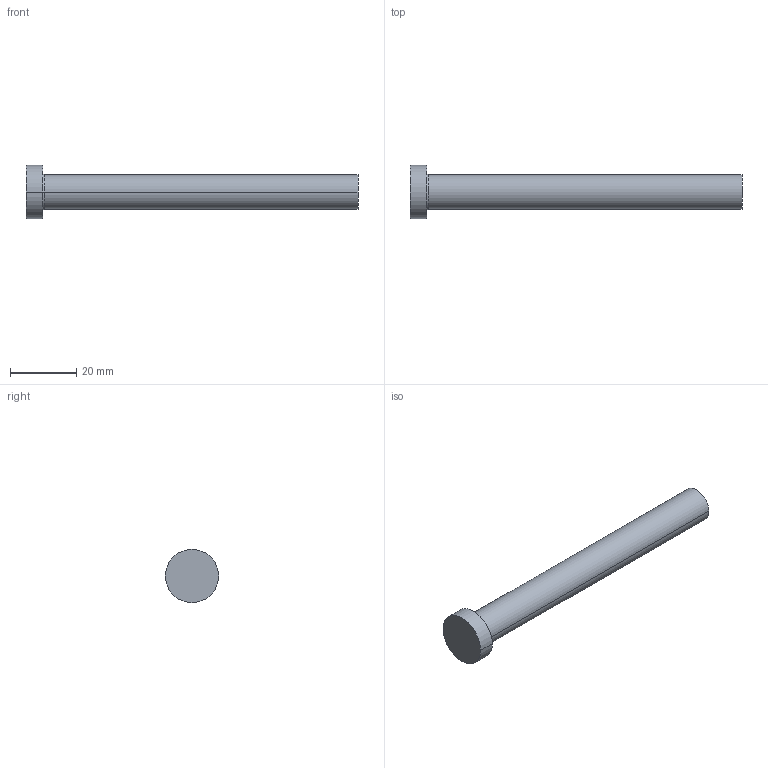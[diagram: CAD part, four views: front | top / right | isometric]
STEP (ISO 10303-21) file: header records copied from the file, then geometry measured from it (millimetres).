
FILE_DESCRIPTION (( 'STEP AP214' ), '1' );
FILE_NAME ('A-10,5x100.STEP', '2020-05-29T16:00:06', ( 'August' ), ( '' ), 'SwSTEP 2.0', 'SolidWorks 2018', '' );
FILE_SCHEMA (( 'AUTOMOTIVE_DESIGN' ));
Length unit declared in the file: millimetre
Products named in the file (1): A-10,5x100
Bounding box: 100 x 16 x 16 mm (x, y, z)
Volume: 9233.2 mm3; surface area: 3780.2 mm2
Topology: 1 solids, 1 shells, 9 faces, 16 edges, 10 vertices
Faces by surface type: cylinder 4, plane 3, torus 2
Entity records: 260 total; most frequent: DIRECTION 48, CARTESIAN_POINT 36, ORIENTED_EDGE 32, AXIS2_PLACEMENT_3D 22, EDGE_CURVE 16, CIRCLE 12, EDGE_LOOP 10, VERTEX_POINT 10
